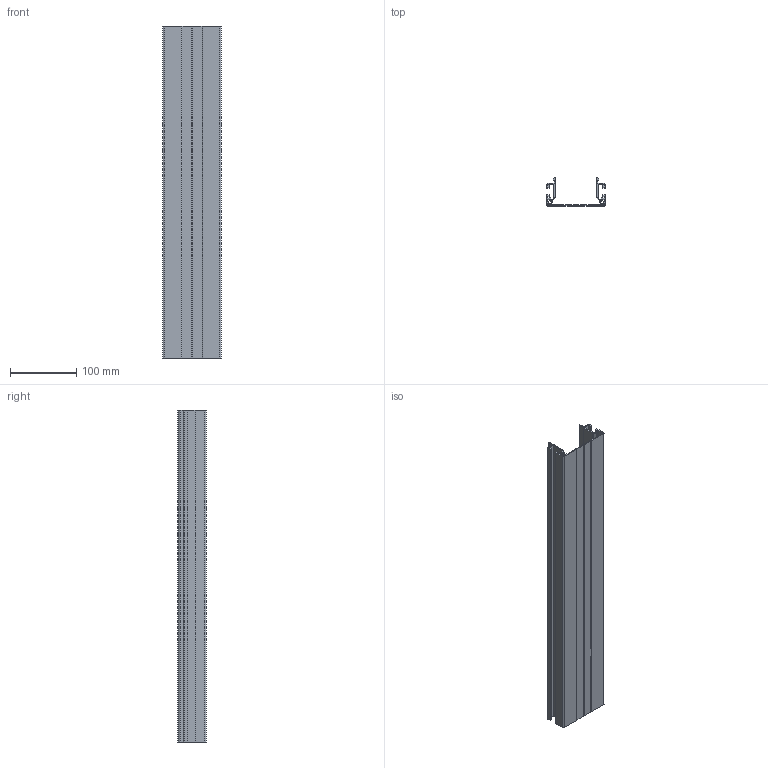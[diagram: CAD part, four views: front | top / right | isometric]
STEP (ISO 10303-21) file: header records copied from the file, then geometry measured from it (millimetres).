
FILE_DESCRIPTION (( 'STEP AP214' ), '1' );
FILE_NAME ('FBCC 3x88.STEP', '2011-06-30T06:40:57', ( '.' ), ( '' ), 'SwSTEP 2.0', 'SolidWorks 2010', '' );
FILE_SCHEMA (( 'AUTOMOTIVE_DESIGN' ));
Length unit declared in the file: millimetre
Products named in the file (1): FBCC 3x88
Bounding box: 88 x 42.2 x 500 mm (x, y, z)
Volume: 216507.7 mm3; surface area: 250185.6 mm2
Topology: 1 solids, 1 shells, 161 faces, 477 edges, 318 vertices
Faces by surface type: plane 108, cylinder 53
Entity records: 5411 total; most frequent: CARTESIAN_POINT 957, ORIENTED_EDGE 954, DIRECTION 907, EDGE_CURVE 477, VECTOR 371, LINE 371, VERTEX_POINT 318, AXIS2_PLACEMENT_3D 268
